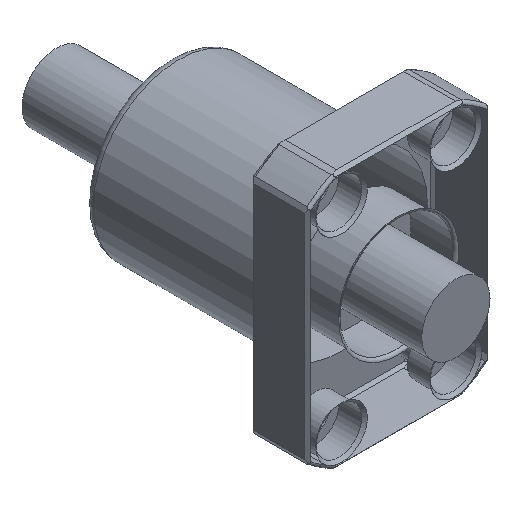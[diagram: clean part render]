
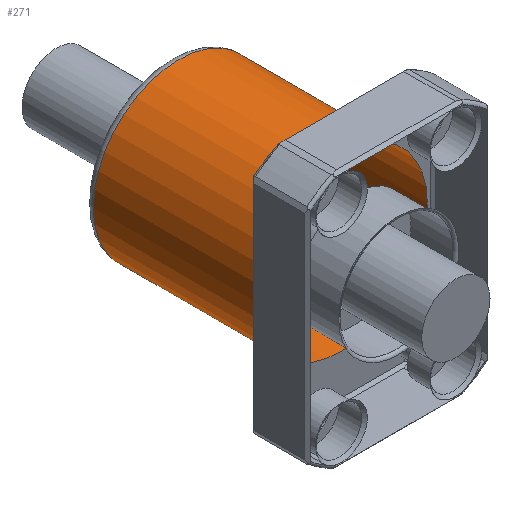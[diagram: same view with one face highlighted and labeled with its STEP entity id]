
A CAD part, isometric view. The second image highlights one B-rep face of the part: STEP entity #271.
In plain terms, the highlighted cylindrical face has radius 15 mm (diameter 30 mm), a full revolution.
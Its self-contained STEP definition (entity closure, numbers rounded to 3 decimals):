
#271=ADVANCED_FACE('',(#362,#363),#336,.T.);
#336=CYLINDRICAL_SURFACE('',#1160,15.);
#362=FACE_BOUND('',#442,.T.);
#363=FACE_BOUND('',#443,.T.);
#442=EDGE_LOOP('',(#584));
#443=EDGE_LOOP('',(#585));
#584=ORIENTED_EDGE('',*,*,#963,.T.);
#585=ORIENTED_EDGE('',*,*,#938,.F.);
#831=VERTEX_POINT('',#1608);
#856=VERTEX_POINT('',#1663);
#938=EDGE_CURVE('',#831,#831,#1073,.T.);
#963=EDGE_CURVE('',#856,#856,#1086,.T.);
#1073=CIRCLE('',#1141,15.);
#1086=CIRCLE('',#1159,15.);
#1141=AXIS2_PLACEMENT_3D('',#1607,#1310,#1311);
#1159=AXIS2_PLACEMENT_3D('',#1662,#1358,#1359);
#1160=AXIS2_PLACEMENT_3D('',#1664,#1360,#1361);
#1310=DIRECTION('',(0.,-1.,0.));
#1311=DIRECTION('',(0.,0.,-1.));
#1358=DIRECTION('',(0.,-1.,0.));
#1359=DIRECTION('',(0.,0.,-1.));
#1360=DIRECTION('',(0.,-1.,0.));
#1361=DIRECTION('',(0.,0.,-1.));
#1607=CARTESIAN_POINT('',(0.,10.,0.));
#1608=CARTESIAN_POINT('',(0.,10.,-15.));
#1662=CARTESIAN_POINT('',(0.,38.5,0.));
#1663=CARTESIAN_POINT('',(0.,38.5,-15.));
#1664=CARTESIAN_POINT('',(0.,40.,0.));
